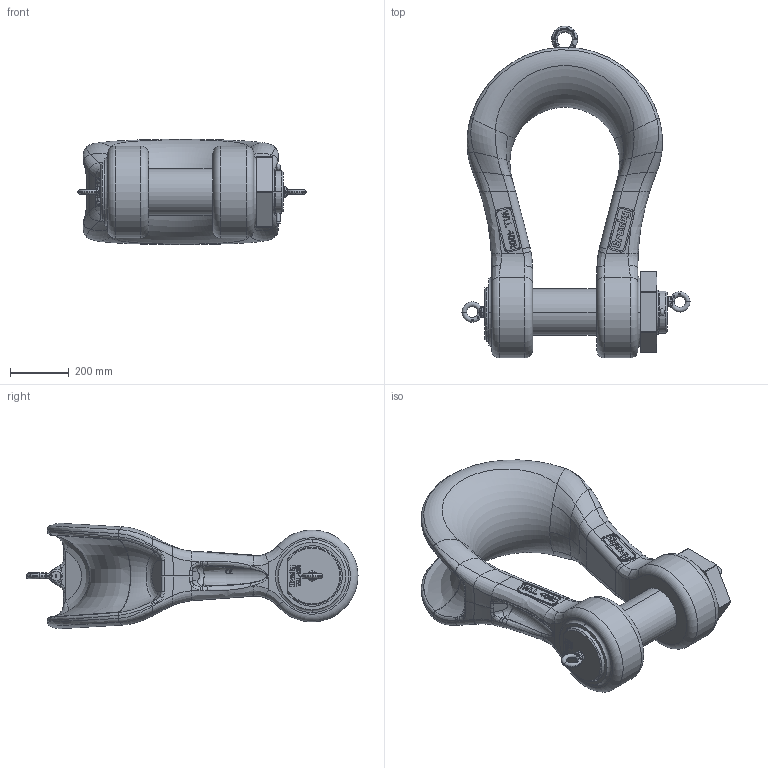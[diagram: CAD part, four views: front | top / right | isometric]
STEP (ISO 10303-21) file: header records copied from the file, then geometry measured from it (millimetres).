
FILE_DESCRIPTION((''),'2;1');
FILE_NAME('1021336_ASM','2024-09-04T11:29:20',('justin.lewis'),('The Crosby Group LLC'),'CREO PARAMETRIC BY PTC INC, 2021304','CREO PARAMETRIC BY PTC INC, 2021304','');
FILE_SCHEMA(('CONFIG_CONTROL_DESIGN','GEOMETRIC_VALIDATION_PROPERTIES_MIM'));
Length unit declared in the file: millimetre
Products named in the file (11): 0829-000400-D000-11; 0829-010400-D000-11; 3683692; 1045995; 3712429; 1502886; 1515866; 88343; 78089; 1019515_ASM; 1021336_ASM
Assembly tree (11 placements, depth 3):
  1021336_ASM
    0829-000400-D000-11
    0829-010400-D000-11
    3683692
    1045995  x2
    3712429
    1019515_ASM
      1502886
      1515866
      88343
      78089
Bounding box: 779.97 x 1135.12 x 359.9 mm (x, y, z)
Volume: 68160721.8 mm3; surface area: 2662444.1 mm2
Topology: 10 solids, 20 shells, 2703 faces, 10238 edges, 8347 vertices
Faces by surface type: plane 1001, extrusion 967, bspline 328, cylinder 134, torus 128, cone 81, revolution 64
Entity records: 202178 total; most frequent: CARTESIAN_POINT 102312, ORIENTED_EDGE 11778, PRESENTATION_STYLE_ASSIGNMENT 11332, STYLED_ITEM 11332, CURVE_STYLE 9131, DIRECTION 7753, EDGE_CURVE 5915, B_SPLINE_CURVE_WITH_KNOTS 5068
